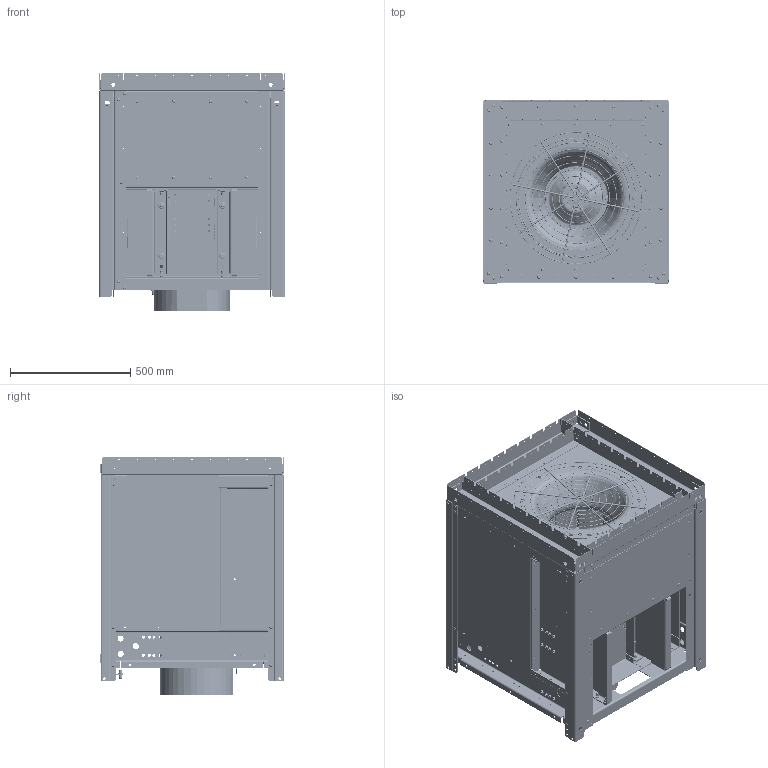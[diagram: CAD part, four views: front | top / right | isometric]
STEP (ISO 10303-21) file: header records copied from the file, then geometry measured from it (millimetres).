
FILE_DESCRIPTION((''),'2;1');
FILE_NAME('165_100_254T_ASM','2012-05-08T',('dbubemyre'),(''),'PRO/ENGINEER BY PARAMETRIC TECHNOLOGY CORPORATION, 2009220','PRO/ENGINEER BY PARAMETRIC TECHNOLOGY CORPORATION, 2009220','');
FILE_SCHEMA(('CONFIG_CONTROL_DESIGN'));
Length unit declared in the file: inch
Products named in the file (99): 0575820004; 0575830004; 0575740004; 0575880005; 0578340001; 057834_MIR; 0575990004_ASM; NEMA_254T_TEFC; 0575690003; 0575680007; 0576650021; 0579720001; 0575870007; 0575720001; 0575950002; WASHER_LOCKING_NO10; HCS021; 0575860003; WASHER_LOCKING_25; CSDD294; HCS021DGB; NUT_SERRATED_HEAD_1-4_20; AF-182_100; 0575770016; HEX-WASHERHD_TRILOBE_1032-3-4; 0578000500_ASM; 0575650003; 0579720001_B; 0575760003; 0575880013; 057581; NUT-INSERT_RIVET_31-18THD; WA012; HCS048; HUCK_FASTENER_PROTRUDI_25_8-6; HUCK_FASTENER_PROTRUDI_25_8-10; 0575660006; 0575700001DGB; 0575790006; 0575890005_ASM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
Assembly tree (475 placements, depth 3):
  165_100_254T_ASM
    0575990004_ASM  x2
      0575820004
      0575830004
      0575740004
      0575880005
      0578340001
      057834_MIR
    NEMA_254T_TEFC
    0575690003
    0575680007
    0576650021
    0579720001
    0578000500_ASM
      0575870007
      0575720001
      0575950002
      WASHER_LOCKING_NO10  x3
      HCS021  x3
      0575860003
      WASHER_LOCKING_25  x8
      CSDD294  x8
      HCS021DGB  x8
      NUT_SERRATED_HEAD_1-4_20  x8
      AF-182_100  x9
      0575770016
      HEX-WASHERHD_TRILOBE_1032-3-4  x36
    0575650003
    0579720001_B
    0575760003
    0575880013  x3
    057581  x4
    NUT-INSERT_RIVET_31-18THD  x8
    WA012  x8
    HCS048  x8
    HUCK_FASTENER_PROTRUDI_25_8-6  x89
    HUCK_FASTENER_PROTRUDI_25_8-10  x20
    0575890005_ASM
      0575660006
      0575700001DGB
      0575790006
    0575890006_ASM
      0575660007
      0575700003DGB
      0575790007
    NUT-INSERT_RIVET_10-32THD
    057602
    FITTING-TUBE-TO-THREAD_25
    NUT_CLINCHING_38-16  x32
    05405801
    057632
    0544950007
    057631  x4
    058559
    BULKHEAD_TUBEFITTING_25  x2
    0575730001
    0576560004_ASM
      INLETGUARD_182
      RING_AB
      RING_AD
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Bounding box: 772.81 x 762.76 x 994.12 mm (x, y, z)
Volume: 111766270.2 mm3; surface area: 20198225.6 mm2
Topology: 473 solids, 528 shells, 10483 faces, 24571 edges, 15425 vertices
Faces by surface type: cylinder 4842, plane 3893, torus 866, cone 533, extrusion 207, bspline 142
Entity records: 140265 total; most frequent: CARTESIAN_POINT 32885, DIRECTION 23741, ORIENTED_EDGE 20138, EDGE_CURVE 10103, AXIS2_PLACEMENT_3D 9310, VERTEX_POINT 6335, EDGE_LOOP 5572, VECTOR 5121
